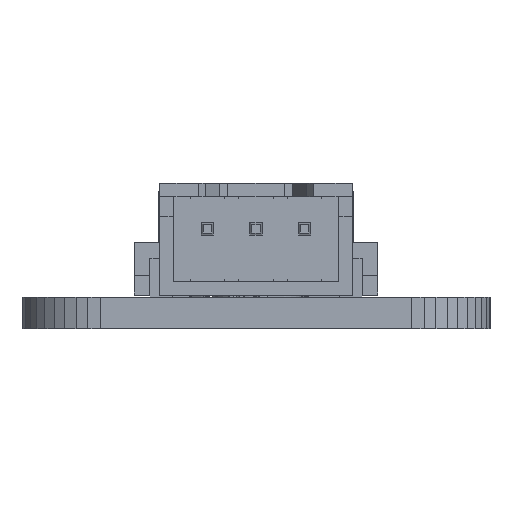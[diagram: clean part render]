
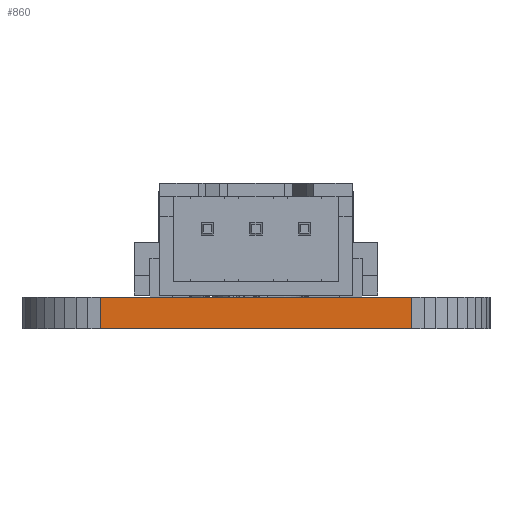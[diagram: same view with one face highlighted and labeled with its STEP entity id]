
A CAD part, front view. The second image highlights one B-rep face of the part: STEP entity #860.
In plain terms, the highlighted planar face has unit normal (0, -1, 0).
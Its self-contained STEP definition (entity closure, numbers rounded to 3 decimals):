
#111 = PLANE('',#112);
#112 = AXIS2_PLACEMENT_3D('',#113,#114,#115);
#113 = CARTESIAN_POINT('',(-12.012,-7.,1.615));
#114 = DIRECTION('',(0.,0.,-1.));
#115 = DIRECTION('',(-1.,0.,0.));
#165 = PLANE('',#166);
#166 = AXIS2_PLACEMENT_3D('',#167,#168,#169);
#167 = CARTESIAN_POINT('',(-12.012,-7.,0.));
#168 = DIRECTION('',(0.,0.,-1.));
#169 = DIRECTION('',(-1.,0.,0.));
#752 = PLANE('',#753);
#753 = AXIS2_PLACEMENT_3D('',#754,#755,#756);
#754 = CARTESIAN_POINT('',(-8.628,-10.963,0.));
#755 = DIRECTION('',(0.072,0.997,0.));
#756 = DIRECTION('',(0.997,-0.072,0.));
#790 = VERTEX_POINT('',#791);
#791 = CARTESIAN_POINT('',(-8.,-11.009,1.615));
#812 = EDGE_CURVE('',#813,#790,#815,.T.);
#813 = VERTEX_POINT('',#814);
#814 = CARTESIAN_POINT('',(-8.,-11.009,0.));
#815 = SURFACE_CURVE('',#816,(#820,#827),.PCURVE_S1.);
#816 = LINE('',#817,#818);
#817 = CARTESIAN_POINT('',(-8.,-11.009,0.));
#818 = VECTOR('',#819,1.);
#819 = DIRECTION('',(0.,0.,1.));
#820 = PCURVE('',#752,#821);
#821 = DEFINITIONAL_REPRESENTATION('',(#822),#826);
#822 = LINE('',#823,#824);
#823 = CARTESIAN_POINT('',(0.629,0.));
#824 = VECTOR('',#825,1.);
#825 = DIRECTION('',(0.,-1.));
#826 = ( GEOMETRIC_REPRESENTATION_CONTEXT(2) 
PARAMETRIC_REPRESENTATION_CONTEXT() REPRESENTATION_CONTEXT('2D SPACE',''
  ) );
#827 = PCURVE('',#828,#833);
#828 = PLANE('',#829);
#829 = AXIS2_PLACEMENT_3D('',#830,#831,#832);
#830 = CARTESIAN_POINT('',(-8.,-11.009,0.));
#831 = DIRECTION('',(0.,1.,0.));
#832 = DIRECTION('',(1.,0.,0.));
#833 = DEFINITIONAL_REPRESENTATION('',(#834),#838);
#834 = LINE('',#835,#836);
#835 = CARTESIAN_POINT('',(0.,0.));
#836 = VECTOR('',#837,1.);
#837 = DIRECTION('',(0.,-1.));
#838 = ( GEOMETRIC_REPRESENTATION_CONTEXT(2) 
PARAMETRIC_REPRESENTATION_CONTEXT() REPRESENTATION_CONTEXT('2D SPACE',''
  ) );
#860 = ADVANCED_FACE('',(#861),#828,.F.);
#861 = FACE_BOUND('',#862,.F.);
#862 = EDGE_LOOP('',(#863,#864,#887,#915));
#863 = ORIENTED_EDGE('',*,*,#812,.T.);
#864 = ORIENTED_EDGE('',*,*,#865,.T.);
#865 = EDGE_CURVE('',#790,#866,#868,.T.);
#866 = VERTEX_POINT('',#867);
#867 = CARTESIAN_POINT('',(8.,-11.012,1.615));
#868 = SURFACE_CURVE('',#869,(#873,#880),.PCURVE_S1.);
#869 = LINE('',#870,#871);
#870 = CARTESIAN_POINT('',(-8.,-11.009,1.615));
#871 = VECTOR('',#872,1.);
#872 = DIRECTION('',(1.,0.,0.));
#873 = PCURVE('',#828,#874);
#874 = DEFINITIONAL_REPRESENTATION('',(#875),#879);
#875 = LINE('',#876,#877);
#876 = CARTESIAN_POINT('',(0.,-1.615));
#877 = VECTOR('',#878,1.);
#878 = DIRECTION('',(1.,0.));
#879 = ( GEOMETRIC_REPRESENTATION_CONTEXT(2) 
PARAMETRIC_REPRESENTATION_CONTEXT() REPRESENTATION_CONTEXT('2D SPACE',''
  ) );
#880 = PCURVE('',#111,#881);
#881 = DEFINITIONAL_REPRESENTATION('',(#882),#886);
#882 = LINE('',#883,#884);
#883 = CARTESIAN_POINT('',(-4.012,-4.009));
#884 = VECTOR('',#885,1.);
#885 = DIRECTION('',(-1.,0.));
#886 = ( GEOMETRIC_REPRESENTATION_CONTEXT(2) 
PARAMETRIC_REPRESENTATION_CONTEXT() REPRESENTATION_CONTEXT('2D SPACE',''
  ) );
#887 = ORIENTED_EDGE('',*,*,#888,.F.);
#888 = EDGE_CURVE('',#889,#866,#891,.T.);
#889 = VERTEX_POINT('',#890);
#890 = CARTESIAN_POINT('',(8.,-11.012,0.));
#891 = SURFACE_CURVE('',#892,(#896,#903),.PCURVE_S1.);
#892 = LINE('',#893,#894);
#893 = CARTESIAN_POINT('',(8.,-11.012,0.));
#894 = VECTOR('',#895,1.);
#895 = DIRECTION('',(0.,0.,1.));
#896 = PCURVE('',#828,#897);
#897 = DEFINITIONAL_REPRESENTATION('',(#898),#902);
#898 = LINE('',#899,#900);
#899 = CARTESIAN_POINT('',(16.,0.));
#900 = VECTOR('',#901,1.);
#901 = DIRECTION('',(0.,-1.));
#902 = ( GEOMETRIC_REPRESENTATION_CONTEXT(2) 
PARAMETRIC_REPRESENTATION_CONTEXT() REPRESENTATION_CONTEXT('2D SPACE',''
  ) );
#903 = PCURVE('',#904,#909);
#904 = PLANE('',#905);
#905 = AXIS2_PLACEMENT_3D('',#906,#907,#908);
#906 = CARTESIAN_POINT('',(8.,-11.012,0.));
#907 = DIRECTION('',(-0.078,0.997,0.));
#908 = DIRECTION('',(0.997,0.078,0.));
#909 = DEFINITIONAL_REPRESENTATION('',(#910),#914);
#910 = LINE('',#911,#912);
#911 = CARTESIAN_POINT('',(0.,0.));
#912 = VECTOR('',#913,1.);
#913 = DIRECTION('',(0.,-1.));
#914 = ( GEOMETRIC_REPRESENTATION_CONTEXT(2) 
PARAMETRIC_REPRESENTATION_CONTEXT() REPRESENTATION_CONTEXT('2D SPACE',''
  ) );
#915 = ORIENTED_EDGE('',*,*,#916,.F.);
#916 = EDGE_CURVE('',#813,#889,#917,.T.);
#917 = SURFACE_CURVE('',#918,(#922,#929),.PCURVE_S1.);
#918 = LINE('',#919,#920);
#919 = CARTESIAN_POINT('',(-8.,-11.009,0.));
#920 = VECTOR('',#921,1.);
#921 = DIRECTION('',(1.,0.,0.));
#922 = PCURVE('',#828,#923);
#923 = DEFINITIONAL_REPRESENTATION('',(#924),#928);
#924 = LINE('',#925,#926);
#925 = CARTESIAN_POINT('',(0.,0.));
#926 = VECTOR('',#927,1.);
#927 = DIRECTION('',(1.,0.));
#928 = ( GEOMETRIC_REPRESENTATION_CONTEXT(2) 
PARAMETRIC_REPRESENTATION_CONTEXT() REPRESENTATION_CONTEXT('2D SPACE',''
  ) );
#929 = PCURVE('',#165,#930);
#930 = DEFINITIONAL_REPRESENTATION('',(#931),#935);
#931 = LINE('',#932,#933);
#932 = CARTESIAN_POINT('',(-4.012,-4.009));
#933 = VECTOR('',#934,1.);
#934 = DIRECTION('',(-1.,0.));
#935 = ( GEOMETRIC_REPRESENTATION_CONTEXT(2) 
PARAMETRIC_REPRESENTATION_CONTEXT() REPRESENTATION_CONTEXT('2D SPACE',''
  ) );
